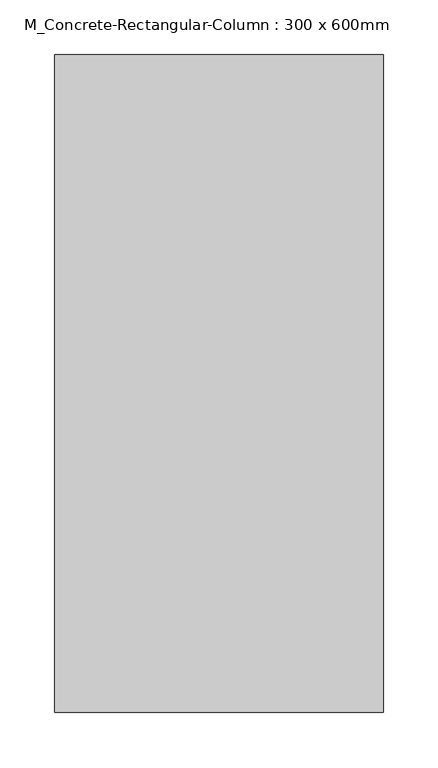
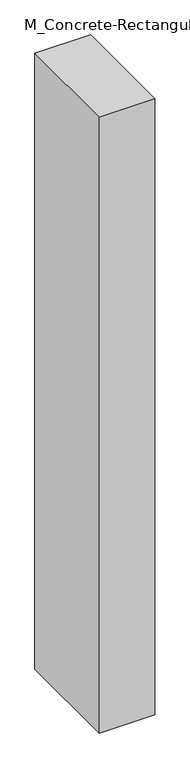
"""IFC4 building model written with IfcOpenShell, lengths in millimetres: column geometry, M_Concrete-Rectangular-Column : 300 x 600mm."""

from ifc_helpers import new_model, si_unit, origin, origin_with_axes, place, context, project, spatial, polyline, outline, extrude, source, transform, mapped, element, save


def m_concrete_rectangular_column_300_x_600mm_f1ddfff3(model_context):
    return source(origin(), model_context, "Body", "SweptSolid", [
        extrude(outline(polyline([(150.0, 300.0), (150.0, -300.0), (-150.0, -300.0), (-150.0, 300.0), (150.0, 300.0)])), origin_with_axes(), (0.0, 0.0, 1.0), 3505.2),
    ])


if __name__ == "__main__":
    model = new_model("IFC4")
    model_context = context("Model", 3, world=origin())
    ifc_project = project(units=[si_unit("LENGTHUNIT", "METRE", prefix="MILLI")], contexts=[model_context])
    site = spatial("IfcSite", under=ifc_project)
    building = spatial("IfcBuilding", under=site)
    placement = place(None, origin())
    m_concrete_rectangular_column_300_x_600mm_shape = m_concrete_rectangular_column_300_x_600mm_f1ddfff3(model_context)
    element("IfcColumn", 1, ObjectType="M_Concrete-Rectangular-Column : 300 x 600mm", at=placement, inside=building, context=model_context, shape_type="MappedRepresentation", body=[
        mapped(m_concrete_rectangular_column_300_x_600mm_shape, transform((0.0, 0.0, 0.0), x_axis=(1.0, 0.0, 0.0), y_axis=(0.0, 1.0, 0.0), z_axis=(0.0, 0.0, 1.0))),
    ])
    save(model, "model.ifc")
